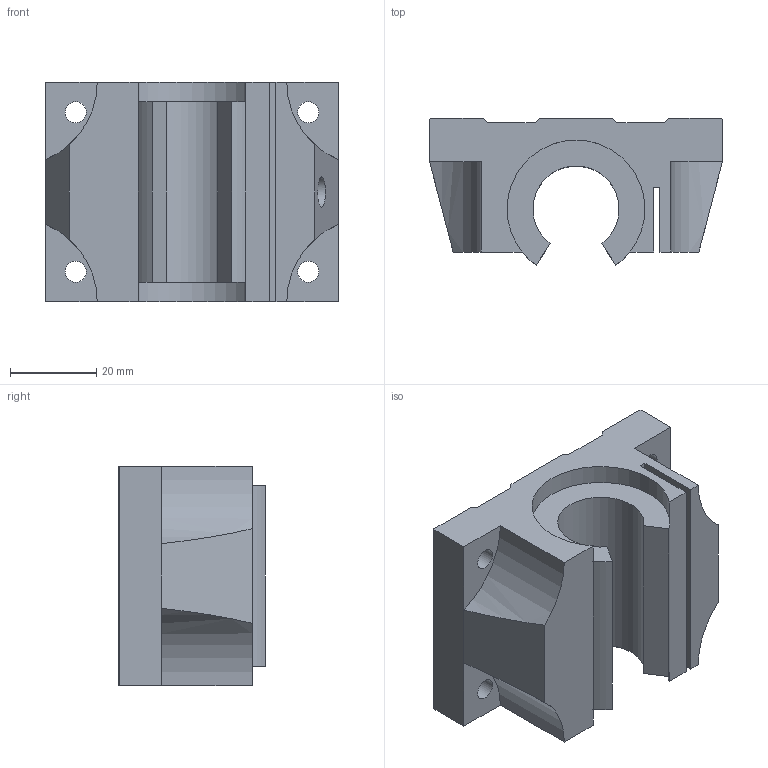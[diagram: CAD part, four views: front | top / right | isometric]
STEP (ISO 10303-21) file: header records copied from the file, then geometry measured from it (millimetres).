
FILE_DESCRIPTION(/* description */ (''),/* implementation_level */ '2;1');
FILE_NAME(/* name */ 'C:\Users\Workstation\ownCloud\Kamp und Kötter\Artikel\Linearführung D20\02_STEP-Dateien\Linearwagen D20-FLANSCH.stp',/* time_stamp */ '2018-09-01T13:00:14+02:00',/* author */ ('Workstation'),/* organization */ (''),/* preprocessor_version */ 'ST-DEVELOPER v17',/* originating_system */ 'Autodesk Inventor 2019',/* authorisation */ '');
FILE_SCHEMA (('AUTOMOTIVE_DESIGN { 1 0 10303 214 3 1 1 }'));
Length unit declared in the file: millimetre
Products named in the file (1): Linearwagen D20-FLANSCH
Bounding box: 68 x 34.06 x 51 mm (x, y, z)
Volume: 69952.6 mm3; surface area: 17242.6 mm2
Topology: 1 solids, 1 shells, 54 faces, 150 edges, 100 vertices
Faces by surface type: plane 33, cylinder 16, cone 5
Full cylindrical faces by diameter (mm): 2.459 x1, 3.242 x1, 4.917 x4, 7 x1
Entity records: 1807 total; most frequent: DIRECTION 314, CARTESIAN_POINT 305, ORIENTED_EDGE 300, EDGE_CURVE 150, AXIS2_PLACEMENT_3D 109, VERTEX_POINT 100, LINE 96, VECTOR 96
